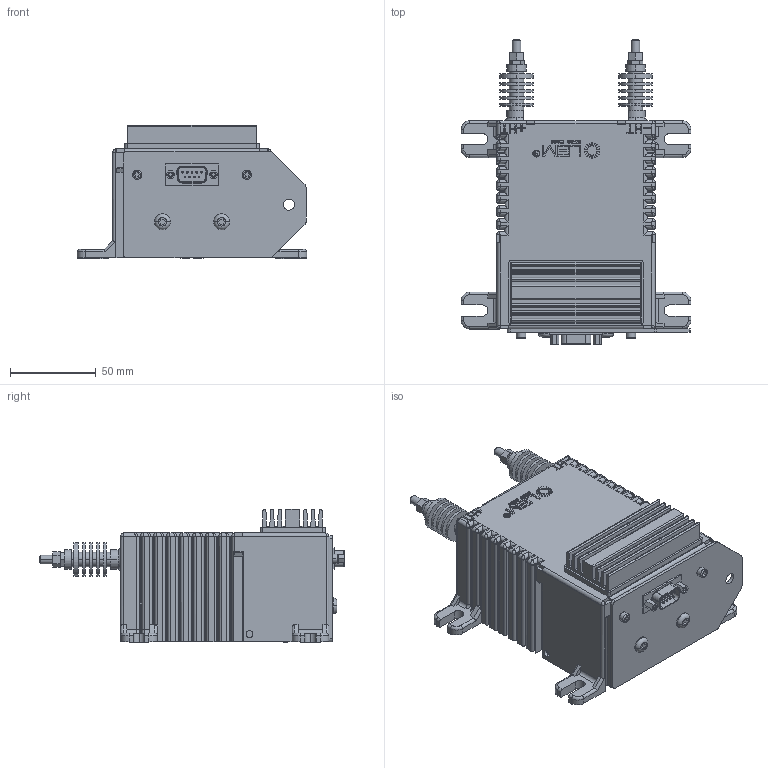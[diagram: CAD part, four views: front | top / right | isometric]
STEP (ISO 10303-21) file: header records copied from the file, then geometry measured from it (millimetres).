
FILE_DESCRIPTION(('CoCreate Modeling STEP Export'),'2;1');
FILE_NAME('CV 4-4000_SP1_blackbox.stp','2009-02-02T 9:41:14',(''),(''),'CoCreate Modeling STEP processor for AP214 (Solid Model)','CoCreate Modeling 16.00A 16-Aug-2008 (C) Parametric Technology GmbH','');
FILE_SCHEMA(('AUTOMOTIVE_DESIGN { 1 0 10303 214 1 1 1 1 }'));
Length unit declared in the file: millimetre
Products named in the file (36): Ecran_HT; Ecrou.secu_M5; Ecrou.secu_M5.2; Ecrou_M5; Ecrou_M5.2; Refroidisseur; pin.7; pin; pin.6; pin.8; p1; pin.5; pin.1; pin.9; pin.3; pin.4; vis; rondelle; ecrou; vis1; SUBD9; Vis.t.carré_M5x53.1; Vis.t.carré_M5x53.1.2; boitier; Vis-M3_6PC; Vis-M3_6PC.1; Vis_Fixation; Vis_Fixation.1
Assembly tree (28 placements, depth 3):
  Ecran_HT
  Ecrou.secu_M5
    Ecrou.secu_M5
  Ecrou.secu_M5.2
    Ecrou.secu_M5
  Ecrou_M5
    Ecrou_M5
  Ecrou_M5.2
    Ecrou_M5
Bounding box: 134 x 177.69 x 77.6 mm (x, y, z)
Volume: 714904.1 mm3; surface area: 140208.5 mm2
Topology: 29 solids, 33 shells, 2695 faces, 7378 edges, 4780 vertices
Faces by surface type: plane 1917, cylinder 585, torus 84, bspline 67, cone 40, extrusion 2
Entity records: 98927 total; most frequent: CARTESIAN_POINT 32893, ORIENTED_EDGE 14548, DIRECTION 12109, EDGE_CURVE 7274, VECTOR 5611, LINE 5609, VERTEX_POINT 4734, AXIS2_PLACEMENT_3D 3249
